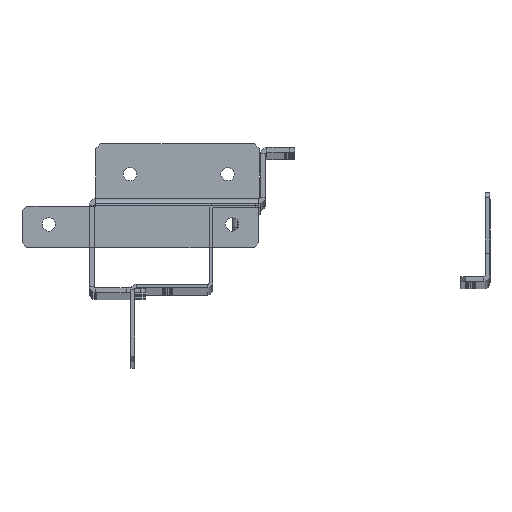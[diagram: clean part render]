
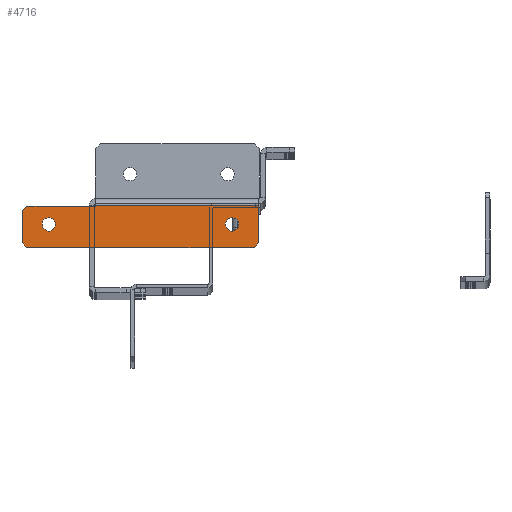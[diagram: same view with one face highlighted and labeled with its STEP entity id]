
A CAD part, top view. The second image highlights one B-rep face of the part: STEP entity #4716.
In plain terms, the highlighted planar face has unit normal (0, 0, 1).
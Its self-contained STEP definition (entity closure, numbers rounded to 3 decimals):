
#1951=CARTESIAN_POINT(' ',(-81.4,-21.6,847.7));
#1952=VERTEX_POINT(' ',#1951);
#1966=CARTESIAN_POINT(' ',(-81.4,-21.6,847.7));
#1971=DIRECTION(' ',(1.,0.,0.));
#1976=VECTOR(' ',#1971,1.);
#1981=LINE('',#1966,#1976);
#1986=CARTESIAN_POINT(' ',(-14.6,-21.6,847.7));
#1987=VERTEX_POINT(' ',#1986);
#1991=EDGE_CURVE(' ',#1952,#1987,#1981,.T.);
#4186=CARTESIAN_POINT(' ',(-81.4,-22.,847.7));
#4187=VERTEX_POINT(' ',#4186);
#4201=CARTESIAN_POINT(' ',(-81.4,-21.6,847.7));
#4206=DIRECTION(' ',(0.,-1.,0.));
#4211=VECTOR(' ',#4206,1.);
#4216=LINE('',#4201,#4211);
#4221=EDGE_CURVE(' ',#1952,#4187,#4216,.T.);
#4251=DIRECTION(' ',(0.,0.,1.));
#4256=CARTESIAN_POINT(' ',(-111.6,-39.,847.7));
#4261=DIRECTION(' ',(1.,0.,0.));
#4266=AXIS2_PLACEMENT_3D(' ',#4256,#4251,#4261);
#4271=PLANE('NONE',#4266);
#4276=CARTESIAN_POINT(' ',(-81.4,-22.,847.7));
#4281=DIRECTION(' ',(-1.,0.,0.));
#4286=VECTOR(' ',#4281,1.);
#4291=LINE('',#4276,#4286);
#4296=CARTESIAN_POINT(' ',(-109.6,-22.,847.7));
#4297=VERTEX_POINT(' ',#4296);
#4301=EDGE_CURVE(' ',#4187,#4297,#4291,.T.);
#4306=ORIENTED_EDGE(' ',*,*,#4301,.T.);
#4311=CARTESIAN_POINT(' ',(-109.6,-22.,847.7));
#4316=DIRECTION(' ',(-0.707,-0.707,0.));
#4321=VECTOR(' ',#4316,1.);
#4326=LINE('',#4311,#4321);
#4331=CARTESIAN_POINT(' ',(-111.6,-24.,847.7));
#4332=VERTEX_POINT(' ',#4331);
#4336=EDGE_CURVE(' ',#4297,#4332,#4326,.T.);
#4341=ORIENTED_EDGE(' ',*,*,#4336,.T.);
#4346=CARTESIAN_POINT(' ',(-111.6,-24.,847.7));
#4351=DIRECTION(' ',(0.,-1.,0.));
#4356=VECTOR(' ',#4351,1.);
#4361=LINE('',#4346,#4356);
#4366=CARTESIAN_POINT(' ',(-111.6,-37.,847.7));
#4367=VERTEX_POINT(' ',#4366);
#4371=EDGE_CURVE(' ',#4332,#4367,#4361,.T.);
#4376=ORIENTED_EDGE(' ',*,*,#4371,.T.);
#4381=CARTESIAN_POINT(' ',(-111.6,-37.,847.7));
#4386=DIRECTION(' ',(0.707,-0.707,0.));
#4391=VECTOR(' ',#4386,1.);
#4396=LINE('',#4381,#4391);
#4401=CARTESIAN_POINT(' ',(-109.6,-39.,847.7));
#4402=VERTEX_POINT(' ',#4401);
#4406=EDGE_CURVE(' ',#4367,#4402,#4396,.T.);
#4411=ORIENTED_EDGE(' ',*,*,#4406,.T.);
#4416=CARTESIAN_POINT(' ',(-109.6,-39.,847.7));
#4421=DIRECTION(' ',(1.,0.,0.));
#4426=VECTOR(' ',#4421,1.);
#4431=LINE('',#4416,#4426);
#4436=CARTESIAN_POINT(' ',(-16.6,-39.,847.7));
#4437=VERTEX_POINT(' ',#4436);
#4441=EDGE_CURVE(' ',#4402,#4437,#4431,.T.);
#4446=ORIENTED_EDGE(' ',*,*,#4441,.T.);
#4451=CARTESIAN_POINT(' ',(-16.6,-39.,847.7));
#4456=DIRECTION(' ',(0.707,0.707,0.));
#4461=VECTOR(' ',#4456,1.);
#4466=LINE('',#4451,#4461);
#4471=CARTESIAN_POINT(' ',(-14.6,-37.,847.7));
#4472=VERTEX_POINT(' ',#4471);
#4476=EDGE_CURVE(' ',#4437,#4472,#4466,.T.);
#4481=ORIENTED_EDGE(' ',*,*,#4476,.T.);
#4486=CARTESIAN_POINT(' ',(-14.6,-37.,847.7));
#4491=DIRECTION(' ',(0.,1.,0.));
#4496=VECTOR(' ',#4491,1.);
#4501=LINE('',#4486,#4496);
#4506=EDGE_CURVE(' ',#4472,#1987,#4501,.T.);
#4511=ORIENTED_EDGE(' ',*,*,#4506,.T.);
#4516=ORIENTED_EDGE(' ',*,*,#1991,.F.);
#4521=ORIENTED_EDGE(' ',*,*,#4221,.T.);
#4526=EDGE_LOOP(' ',(#4306,#4341,#4376,#4411,#4446,#4481,#4511,#4516,#4521));
#4531=FACE_OUTER_BOUND(' ',#4526,.T.);
#4536=CARTESIAN_POINT(' ',(-25.6,-29.5,847.7));
#4541=DIRECTION(' ',(0.,0.,1.));
#4546=DIRECTION(' ',(1.,0.,0.));
#4551=AXIS2_PLACEMENT_3D(' ',#4536,#4541,#4546);
#4556=CIRCLE('',#4551,2.75);
#4561=CARTESIAN_POINT(' ',(-22.85,-29.5,847.7));
#4562=VERTEX_POINT(' ',#4561);
#4566=CARTESIAN_POINT(' ',(-28.35,-29.5,847.7));
#4567=VERTEX_POINT(' ',#4566);
#4571=EDGE_CURVE(' ',#4562,#4567,#4556,.T.);
#4576=ORIENTED_EDGE(' ',*,*,#4571,.F.);
#4581=CARTESIAN_POINT(' ',(-25.6,-29.5,847.7));
#4586=DIRECTION(' ',(0.,-0.,1.));
#4591=DIRECTION(' ',(-1.,0.,0.));
#4596=AXIS2_PLACEMENT_3D(' ',#4581,#4586,#4591);
#4601=CIRCLE('',#4596,2.75);
#4606=EDGE_CURVE(' ',#4567,#4562,#4601,.T.);
#4611=ORIENTED_EDGE(' ',*,*,#4606,.F.);
#4616=EDGE_LOOP(' ',(#4576,#4611));
#4621=FACE_BOUND(' ',#4616,.T.);
#4626=CARTESIAN_POINT(' ',(-100.6,-29.5,847.7));
#4631=DIRECTION(' ',(0.,0.,1.));
#4636=DIRECTION(' ',(1.,0.,0.));
#4641=AXIS2_PLACEMENT_3D(' ',#4626,#4631,#4636);
#4646=CIRCLE('',#4641,2.75);
#4651=CARTESIAN_POINT(' ',(-97.85,-29.5,847.7));
#4652=VERTEX_POINT(' ',#4651);
#4656=CARTESIAN_POINT(' ',(-103.35,-29.5,847.7));
#4657=VERTEX_POINT(' ',#4656);
#4661=EDGE_CURVE(' ',#4652,#4657,#4646,.T.);
#4666=ORIENTED_EDGE(' ',*,*,#4661,.F.);
#4671=CARTESIAN_POINT(' ',(-100.6,-29.5,847.7));
#4676=DIRECTION(' ',(0.,-0.,1.));
#4681=DIRECTION(' ',(-1.,0.,0.));
#4686=AXIS2_PLACEMENT_3D(' ',#4671,#4676,#4681);
#4691=CIRCLE('',#4686,2.75);
#4696=EDGE_CURVE(' ',#4657,#4652,#4691,.T.);
#4701=ORIENTED_EDGE(' ',*,*,#4696,.F.);
#4706=EDGE_LOOP(' ',(#4666,#4701));
#4711=FACE_BOUND(' ',#4706,.T.);
#4716=ADVANCED_FACE('NONE',(#4531,#4621,#4711),#4271,.T.);
